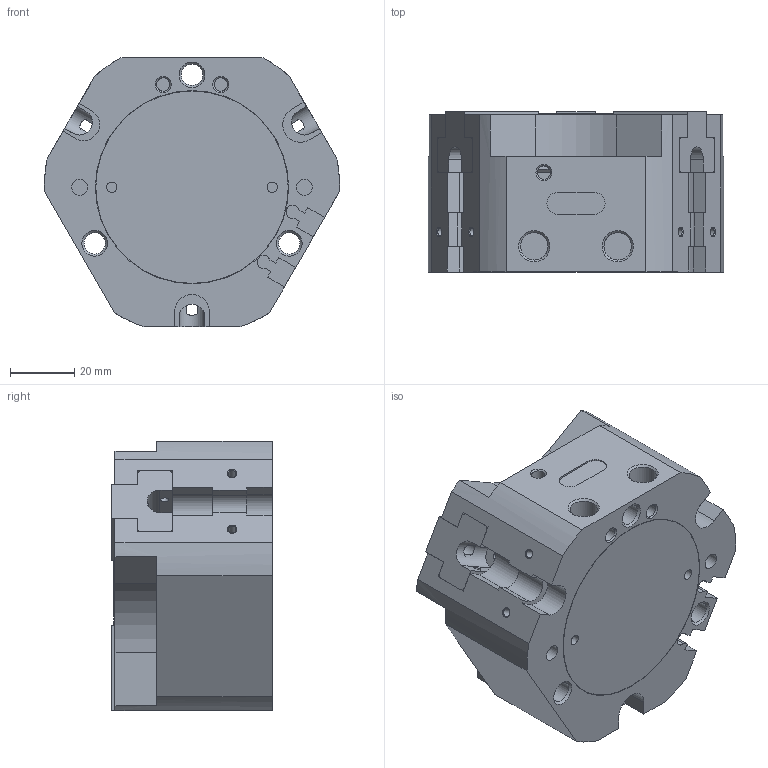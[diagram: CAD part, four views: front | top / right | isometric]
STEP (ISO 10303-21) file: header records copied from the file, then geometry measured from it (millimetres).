
FILE_DESCRIPTION( ( 'STEP AP214' ), '1' );
FILE_NAME( 'C:/Users/ashearer/Desktop/Mindman New CAD/Grippers/MCHJ-80-SD_0_.stp', ' ', ( ' ' ), ( ' ' ), 'PSStep 15.0.47', 'PARTsolutions', ' ' );
FILE_SCHEMA( ( 'AUTOMOTIVE_DESIGN { 1 0 10303 214 1 1 1 1 }' ) );
Length unit declared in the file: millimetre
Products named in the file (4): MCHJ-80-SD(0); _MCHJ-80-SD(dummy_0); _MCHJ-80-SD-body; _MCHJ-80-SD-finger
Assembly tree (5 placements, depth 2):
  MCHJ-80-SD(0)
    _MCHJ-80-SD(dummy_0)
    _MCHJ-80-SD-body
    _MCHJ-80-SD-finger  x3
Bounding box: 91.99 x 50 x 84 mm (x, y, z)
Volume: 243542.8 mm3; surface area: 54004.5 mm2
Topology: 4 solids, 4 shells, 402 faces, 1051 edges, 688 vertices
Faces by surface type: plane 278, cylinder 90, cone 34
Full cylindrical faces by diameter (mm): 2.013 x6, 2.459 x6, 2.5 x6, 3.2 x2, 4.134 x3, 4.917 x6, 5 x2, 6.647 x3, 8 x6, 8.566 x2, 10.2 x3, 60 x1, 60.2 x1
Entity records: 10510 total; most frequent: CARTESIAN_POINT 1565, DIRECTION 1384, ORIENTED_EDGE 1286, EDGE_CURVE 643, AXIS2_PLACEMENT_3D 463, VERTEX_POINT 459, LINE 458, VECTOR 458
